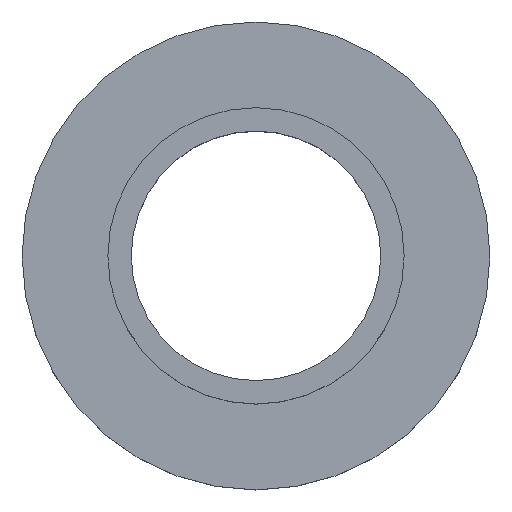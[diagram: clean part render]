
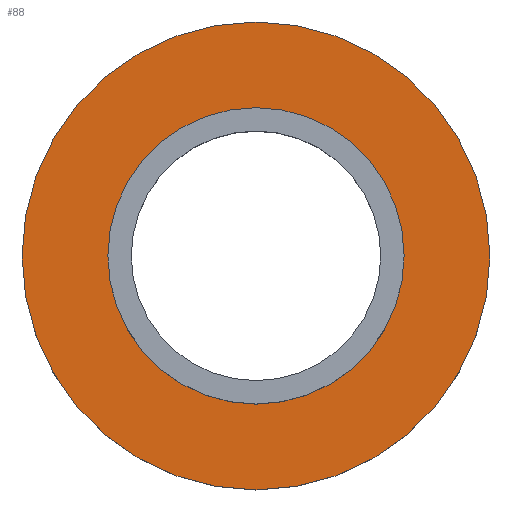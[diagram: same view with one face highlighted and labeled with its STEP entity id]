
A CAD part, top view. The second image highlights one B-rep face of the part: STEP entity #88.
In plain terms, the highlighted planar face has unit normal (0, 0, 1).
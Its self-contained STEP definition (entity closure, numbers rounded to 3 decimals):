
#16=FACE_BOUND('',#33,.T.);
#19=PLANE('',#114);
#25=FACE_OUTER_BOUND('',#32,.T.);
#32=EDGE_LOOP('',(#77));
#33=EDGE_LOOP('',(#78));
#45=CIRCLE('',#109,4.75);
#46=CIRCLE('',#112,7.5);
#51=VERTEX_POINT('',#155);
#52=VERTEX_POINT('',#160);
#59=EDGE_CURVE('',#51,#51,#45,.T.);
#60=EDGE_CURVE('',#52,#52,#46,.T.);
#77=ORIENTED_EDGE('',*,*,#60,.T.);
#78=ORIENTED_EDGE('',*,*,#59,.T.);
#88=ADVANCED_FACE('',(#25,#16),#19,.T.);
#109=AXIS2_PLACEMENT_3D('',#157,#130,#131);
#112=AXIS2_PLACEMENT_3D('',#161,#136,#137);
#114=AXIS2_PLACEMENT_3D('',#165,#141,#142);
#130=DIRECTION('center_axis',(0.,0.,-1.));
#131=DIRECTION('ref_axis',(-1.,0.,0.));
#136=DIRECTION('center_axis',(0.,0.,1.));
#137=DIRECTION('ref_axis',(1.,0.,0.));
#141=DIRECTION('center_axis',(0.,0.,1.));
#142=DIRECTION('ref_axis',(1.,0.,0.));
#155=CARTESIAN_POINT('',(4.75,0.,2.));
#157=CARTESIAN_POINT('Origin',(0.,0.,2.));
#160=CARTESIAN_POINT('',(-7.5,0.,2.));
#161=CARTESIAN_POINT('Origin',(0.,0.,2.));
#165=CARTESIAN_POINT('Origin',(0.,0.,2.));
